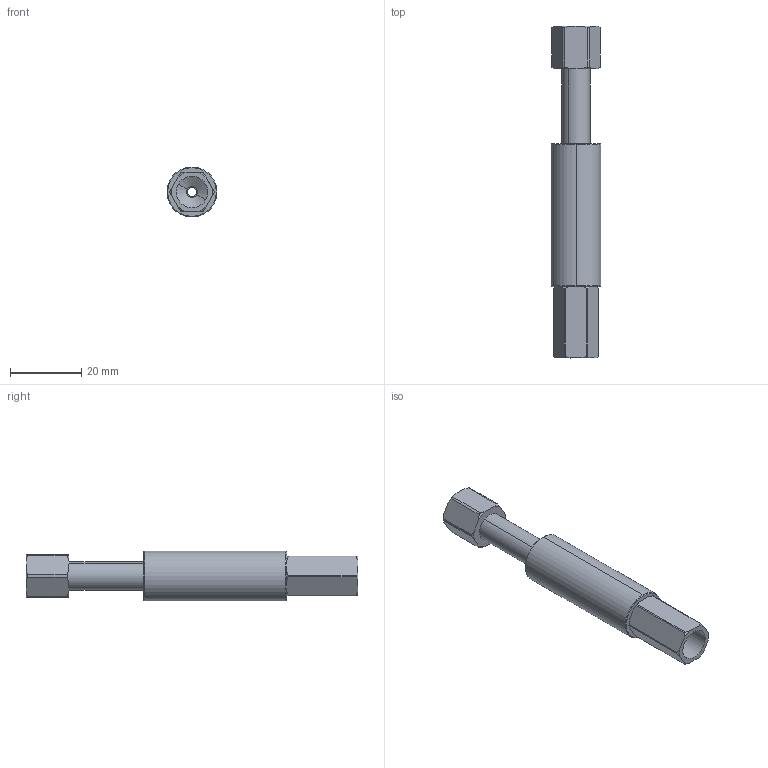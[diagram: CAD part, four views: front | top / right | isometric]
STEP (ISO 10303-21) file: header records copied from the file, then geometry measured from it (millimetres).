
FILE_DESCRIPTION (( 'STEP AP214' ), '1' );
FILE_NAME ('VFR1421-G18.STEP', '2019-11-15T05:57:42', ( '微软用户' ), ( '微软中国' ), 'SwSTEP 2.0', 'SolidWorks 2016', '' );
FILE_SCHEMA (( 'AUTOMOTIVE_DESIGN' ));
Length unit declared in the file: millimetre
Products named in the file (1): VFR1421-G18
Bounding box: 14 x 93 x 14 mm (x, y, z)
Volume: 8620.3 mm3; surface area: 7381.8 mm2
Topology: 3 solids, 3 shells, 136 faces, 329 edges, 204 vertices
Faces by surface type: cone 63, cylinder 50, plane 23
Entity records: 5589 total; most frequent: CARTESIAN_POINT 814, DIRECTION 711, ORIENTED_EDGE 658, EDGE_CURVE 329, AXIS2_PLACEMENT_3D 293, VERTEX_POINT 204, CIRCLE 156, EDGE_LOOP 147
